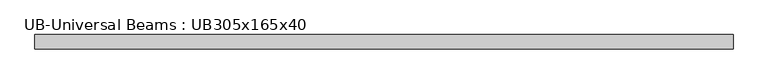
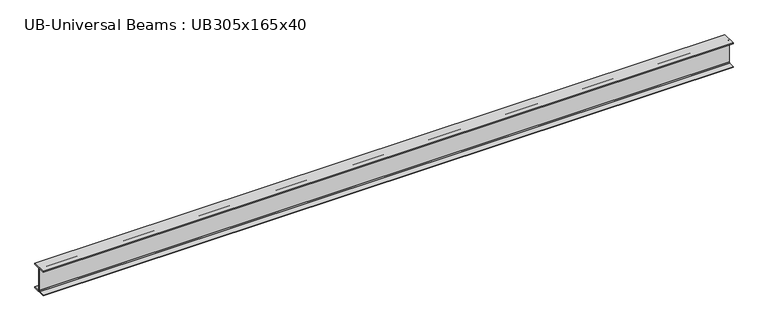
"""IFC4 building model written with IfcOpenShell, lengths in millimetres: beam geometry, UB-Universal Beams : UB305x165x40."""

from ifc_helpers import new_model, si_unit, point, frame, frame_2d, origin, place, context, project, spatial, polyline, circle_curve, trimmed, segment, composite_curve, outline, extrude, source, transform, mapped, element, save


def ub_universal_beams_ub305x165x40_0a5f2f96(model_context):
    return source(origin(), model_context, "Body", "SweptSolid", [
        extrude(outline(composite_curve([segment(polyline([(82.5, -141.5), (82.5, -151.7), (-82.5, -151.7), (-82.5, -141.5), (-11.9, -141.5)]), True, "CONTINUOUS"), segment(trimmed(circle_curve(frame_2d((-11.9, -132.6)), 8.9), [point((-11.9, -141.5))], [point((-3.0, -132.6))], True, "CARTESIAN"), True, "CONTINUOUS"), segment(polyline([(-3.0, -132.6), (-3.0, 132.6)]), True, "CONTINUOUS"), segment(trimmed(circle_curve(frame_2d((-11.9, 132.6)), 8.9), [point((-3.0, 132.6))], [point((-11.9, 141.5))], True, "CARTESIAN"), True, "CONTINUOUS"), segment(polyline([(-11.9, 141.5), (-82.5, 141.5), (-82.5, 151.7), (82.5, 151.7), (82.5, 141.5), (11.9, 141.5)]), True, "CONTINUOUS"), segment(trimmed(circle_curve(frame_2d((11.9, 132.6)), 8.9), [point((11.9, 141.5))], [point((3.0, 132.6))], True, "CARTESIAN"), True, "CONTINUOUS"), segment(polyline([(3.0, 132.6), (3.0, -132.6)]), True, "CONTINUOUS"), segment(trimmed(circle_curve(frame_2d((11.9, -132.6)), 8.9), [point((3.0, -132.6))], [point((11.9, -141.5))], True, "CARTESIAN"), True, "CONTINUOUS"), segment(polyline([(11.9, -141.5), (82.5, -141.5)]), True, "CONTINUOUS")], self_intersect=False)), frame((-4061.7, 0.0, 0.0), z_axis=(1.0, 0.0, 0.0), x_axis=(0.0, 1.0, 0.0)), (0.0, 0.0, 1.0), 8123.4),
    ])


if __name__ == "__main__":
    model = new_model("IFC4")
    model_context = context("Model", 3, world=origin())
    ifc_project = project(units=[si_unit("LENGTHUNIT", "METRE", prefix="MILLI")], contexts=[model_context])
    site = spatial("IfcSite", under=ifc_project)
    building = spatial("IfcBuilding", under=site)
    placement = place(None, origin())
    ub_universal_beams_ub305x165x40_shape = ub_universal_beams_ub305x165x40_0a5f2f96(model_context)
    element("IfcBeam", 1, ObjectType="UB-Universal Beams : UB305x165x40", at=placement, inside=building, context=model_context, shape_type="MappedRepresentation", body=[
        mapped(ub_universal_beams_ub305x165x40_shape, transform((0.0, 0.0, 0.0), x_axis=(1.0, 0.0, 0.0), y_axis=(0.0, 1.0, 0.0), z_axis=(0.0, 0.0, 1.0))),
    ])
    save(model, "model.ifc")
